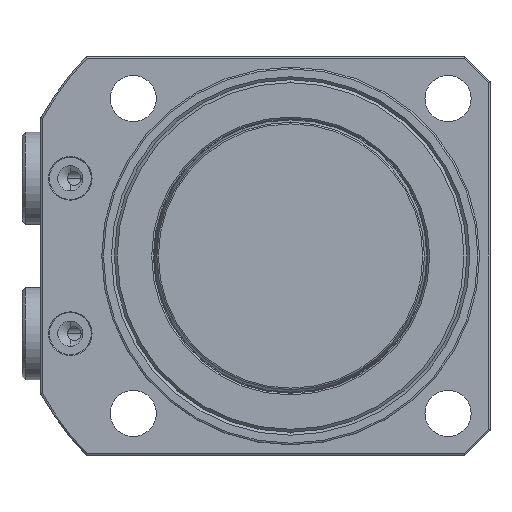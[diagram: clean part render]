
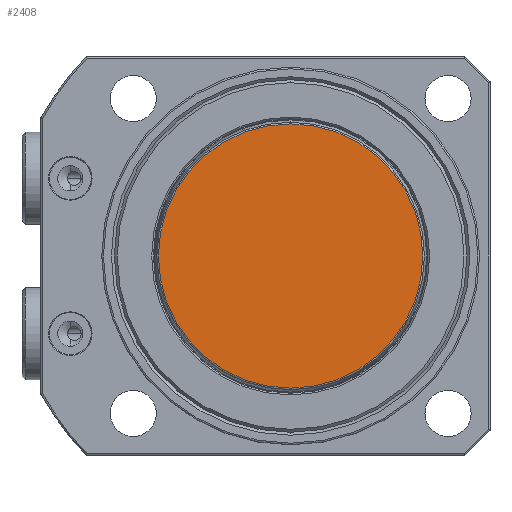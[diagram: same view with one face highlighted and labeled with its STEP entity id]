
A CAD part, front view. The second image highlights one B-rep face of the part: STEP entity #2408.
In plain terms, the highlighted planar face has unit normal (0, -1, 0).
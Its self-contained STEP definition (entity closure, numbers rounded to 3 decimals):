
#378 = CARTESIAN_POINT ( 'NONE',  ( 0., 0., -31.492 ) ) ;
#391 = CARTESIAN_POINT ( 'NONE',  ( 0., 0., 31.492 ) ) ;
#421 = CARTESIAN_POINT ( 'NONE',  ( 0., 0., 0. ) ) ;
#422 = DIRECTION ( 'NONE',  ( 0., -1., 0. ) ) ;
#423 = DIRECTION ( 'NONE',  ( 0., 0., 1. ) ) ;
#1624 = CIRCLE ( 'NONE', #3911, 31.492 ) ;
#1914 = VERTEX_POINT ( 'NONE', #378 ) ;
#1927 = VERTEX_POINT ( 'NONE', #391 ) ;
#2055 = EDGE_CURVE ( 'NONE', #1927, #1914, #1624, .T. ) ;
#2408 = ADVANCED_FACE ( 'NONE', ( #5362 ), #5363, .F. ) ;
#2604 = CIRCLE ( 'NONE', #2611, 31.492 ) ;
#2611 = AXIS2_PLACEMENT_3D ( 'NONE', #3087, #3088, #3089 ) ;
#3087 = CARTESIAN_POINT ( 'NONE',  ( 0., 0., 0. ) ) ;
#3088 = DIRECTION ( 'NONE',  ( 0., -1., 0. ) ) ;
#3089 = DIRECTION ( 'NONE',  ( 0., 0., 1. ) ) ;
#3343 = ORIENTED_EDGE ( 'NONE', *, *, #3905, .T. ) ;
#3344 = ORIENTED_EDGE ( 'NONE', *, *, #2055, .T. ) ;
#3514 = EDGE_LOOP ( 'NONE', ( #3344, #3343 ) ) ;
#3905 = EDGE_CURVE ( 'NONE', #1914, #1927, #2604, .T. ) ;
#3911 = AXIS2_PLACEMENT_3D ( 'NONE', #421, #422, #423 ) ;
#4045 = AXIS2_PLACEMENT_3D ( 'NONE', #5360, #5366, #5367 ) ;
#5360 = CARTESIAN_POINT ( 'NONE',  ( 31.772, 0., 0. ) ) ;
#5362 = FACE_OUTER_BOUND ( 'NONE', #3514, .T. ) ;
#5363 = PLANE ( 'NONE',  #4045 ) ;
#5366 = DIRECTION ( 'NONE',  ( 0., 1., 0. ) ) ;
#5367 = DIRECTION ( 'NONE',  ( 0., 0., 1. ) ) ;
